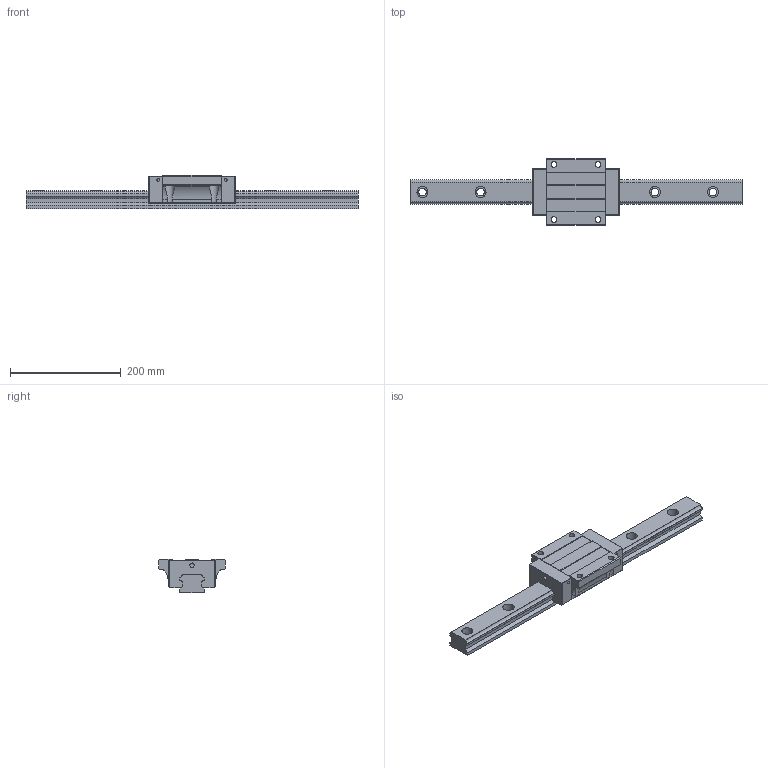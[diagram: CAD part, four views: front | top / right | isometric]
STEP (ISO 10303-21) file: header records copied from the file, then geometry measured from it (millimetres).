
FILE_DESCRIPTION (( 'STEP AP203' ), '1' );
FILE_NAME ('TRH45FL-DU.STEP', '2024-06-28T02:58:26', ( '' ), ( '' ), 'SwSTEP 2.0', 'SolidWorks 2022', '' );
FILE_SCHEMA (( 'CONFIG_CONTROL_DESIGN' ));
Length unit declared in the file: millimetre
Products named in the file (1): TRH45FL-DU
Bounding box: 600 x 120 x 60 mm (x, y, z)
Volume: 1287783.3 mm3; surface area: 175378.7 mm2
Topology: 2 solids, 2 shells, 214 faces, 582 edges, 380 vertices
Faces by surface type: cylinder 114, plane 96, sphere 4
Entity records: 7369 total; most frequent: CARTESIAN_POINT 1749, DIRECTION 1172, ORIENTED_EDGE 1156, EDGE_CURVE 578, AXIS2_PLACEMENT_3D 411, VERTEX_POINT 380, LINE 350, VECTOR 350
